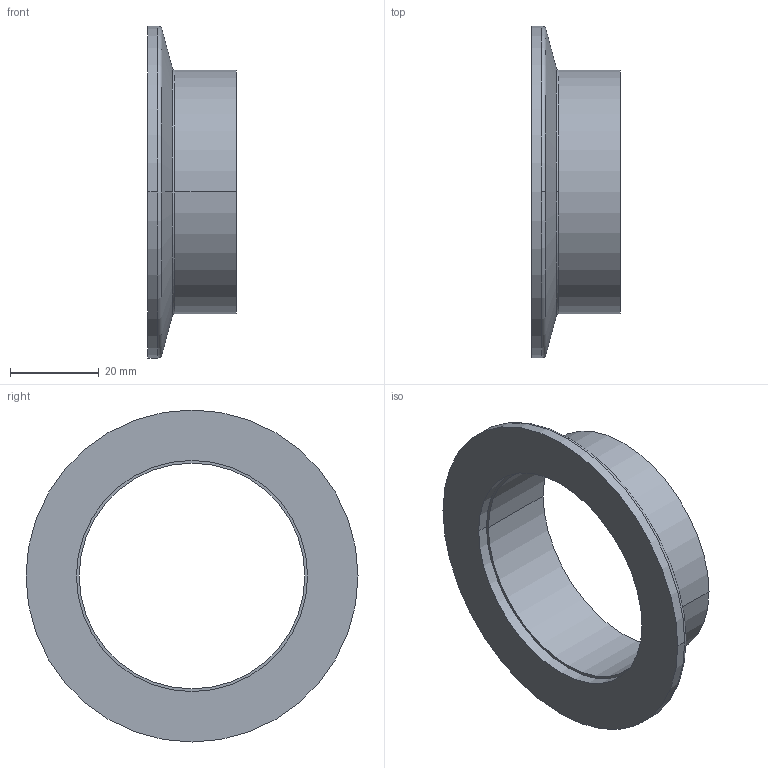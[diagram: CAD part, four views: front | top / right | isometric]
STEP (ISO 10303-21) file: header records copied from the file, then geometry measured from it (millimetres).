
FILE_DESCRIPTION((''),'2;1');
FILE_NAME('W:\211-205.stp','2003-10-09T09:57:22',('KAA'),(''),'Autodesk Inventor (R) 6.0','Autodesk Inventor (R) 6.0','');
FILE_SCHEMA(('CONFIG_CONTROL_DESIGN'));
Length unit declared in the file: millimetre
Products named in the file (1): 211-205
Bounding box: 20 x 75 x 75 mm (x, y, z)
Volume: 15119.2 mm3; surface area: 11140.4 mm2
Topology: 1 solids, 1 shells, 17 faces, 42 edges, 28 vertices
Faces by surface type: cylinder 8, plane 3, torus 2, cone 2, bspline 2
Entity records: 707 total; most frequent: CARTESIAN_POINT 176, DIRECTION 106, ORIENTED_EDGE 84, AXIS2_PLACEMENT_3D 48, EDGE_CURVE 42, CIRCLE 32, VERTEX_POINT 28, EDGE_LOOP 20
